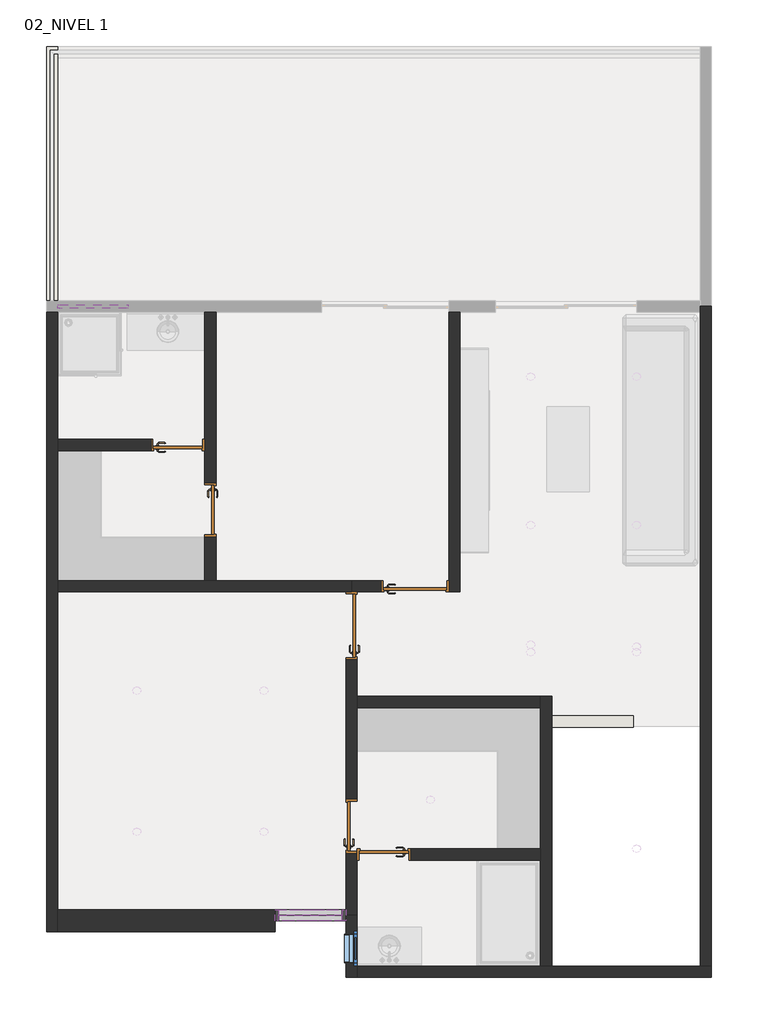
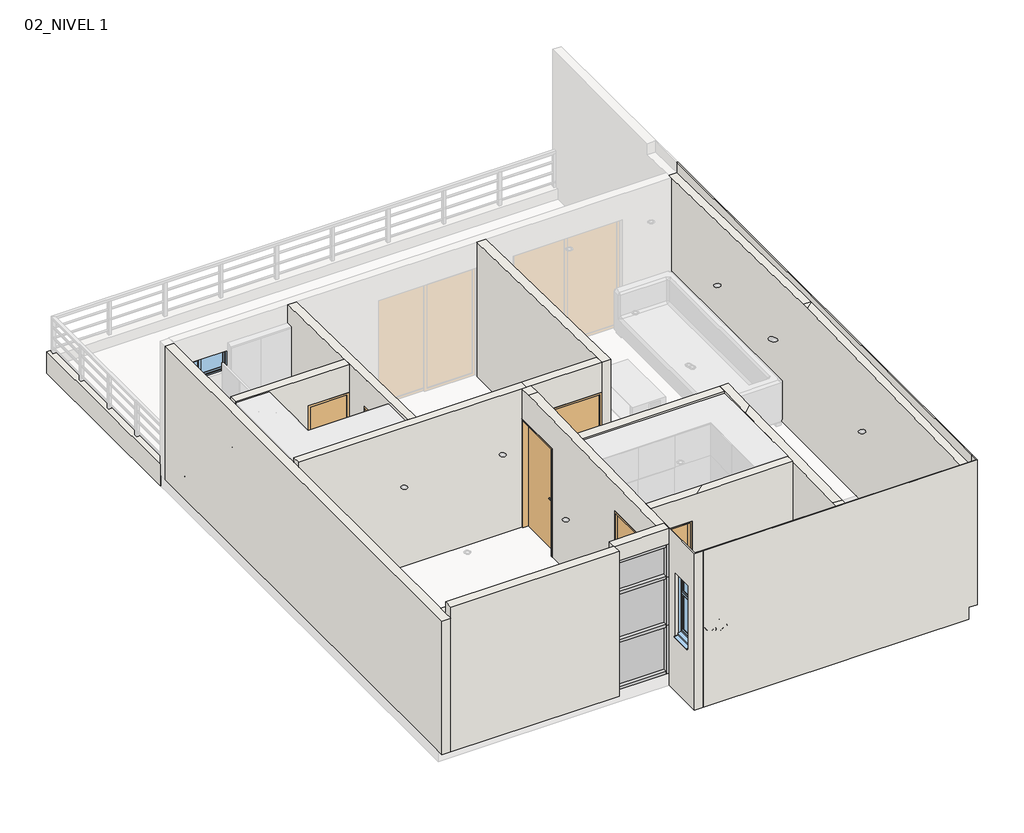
# One storey, part 1 of 2: 17 walls, 10 members, 6 doors, 3 plates, 2 windows.
"""IFC4 building model written with IfcOpenShell, lengths in millimetres."""

from ifc_helpers import new_model, si_unit, frame, origin, place, context, project, spatial, polyline, outline, extrude, faceted_brep, transform, mapped, element, save
from components import door_0_75x2_10_m_d5b717f6, door_0_75x2_10_m_664283bd, door_0_90x2_10_m_c8e1bc58, montante_rectangular_50_x_150mm_negro_35d6a770, montante_rectangular_50_x_150mm_negro_3ddb3363, montante_rectangular_50_x_150mm_negro_4f41d6b7, montante_rectangular_50_x_150mm_negro_e77f96f9, panel_de_sistema_cristal_6_mm_519516f2, panel_de_sistema_cristal_6_mm_005e9894, panel_de_sistema_cristal_6_mm_a6e31bd9, window_0_40m_x_1_20m_34fc3aa1, window_1_00_x_0_40_m_51c43401

model = new_model("IFC4")

# Units and contexts
model_context = context("Model", 3, world=origin())
ifc_project = project(units=[si_unit("LENGTHUNIT", "METRE", prefix="MILLI")], contexts=[model_context])

# Site, building, storey
site = spatial("IfcSite", under=ifc_project)
building = spatial("IfcBuilding", under=site)
storey = spatial("IfcBuildingStorey", under=building, Name="02_NIVEL 1", Elevation=3100.0)

# Doors
placement = place(None, origin())
door_0_75x2_10_m_shape = door_0_75x2_10_m_d5b717f6(model_context)
element("IfcDoor", 1, ObjectType="PUERTA DE  MADERA-CEDRO : 0.75X2.10 M", at=placement, inside=storey, context=model_context, shape_type="MappedRepresentation", body=[
    mapped(door_0_75x2_10_m_shape, transform((8611.5346352, 561.9853574, 3100.0), x_axis=(1.0, 0.0, 0.0), y_axis=(0.0, 1.0, 0.0), z_axis=(0.0, 0.0, 1.0))),
])
element("IfcDoor", 2, ObjectType="PUERTA DE  MADERA-CEDRO : 0.75X2.10 M", at=placement, inside=storey, context=model_context, shape_type="MappedRepresentation", body=[
    mapped(door_0_75x2_10_m_shape, transform((5691.5346352, 6361.9853574, 3100.0), x_axis=(-1.0, 0.0, 0.0), y_axis=(0.0, -1.0, 0.0), z_axis=(0.0, 0.0, 1.0))),
])
door_0_75x2_10_m_2_shape = door_0_75x2_10_m_664283bd(model_context)
element("IfcDoor", 3, ObjectType="PUERTA DE  MADERA-CEDRO : 0.75X2.10 M", at=placement, inside=storey, context=model_context, shape_type="MappedRepresentation", body=[
    mapped(door_0_75x2_10_m_2_shape, transform((8151.5346352, 961.9853574, 3100.0), x_axis=(0.0, -1.0, 0.0), y_axis=(1.0, 0.0, 0.0), z_axis=(0.0, 0.0, 1.0))),
])
element("IfcDoor", 4, ObjectType="PUERTA DE  MADERA-CEDRO : 0.75X2.10 M", at=placement, inside=storey, context=model_context, shape_type="MappedRepresentation", body=[
    mapped(door_0_75x2_10_m_2_shape, transform((6151.5346352, 5441.9853574, 3100.0), x_axis=(0.0, 1.0, 0.0), y_axis=(-1.0, 0.0, 0.0), z_axis=(0.0, 0.0, 1.0))),
])
door_0_90x2_10_m_shape = door_0_90x2_10_m_c8e1bc58(model_context)
element("IfcDoor", 5, ObjectType="PUERTA DE  MADERA-CEDRO : 0.90x2.10 M", at=placement, inside=storey, context=model_context, shape_type="MappedRepresentation", body=[
    mapped(door_0_90x2_10_m_shape, transform((8151.5346352, 3801.9853574, 3100.0), x_axis=(0.0, -1.0, 0.0), y_axis=(1.0, 0.0, 0.0), z_axis=(0.0, 0.0, 1.0))),
])
element("IfcDoor", 6, ObjectType="PUERTA DE  MADERA-CEDRO : 0.90x2.10 M", at=placement, inside=storey, context=model_context, shape_type="MappedRepresentation", body=[
    mapped(door_0_90x2_10_m_shape, transform((9051.5346352, 4361.9853574, 3100.0), x_axis=(-1.0, 0.0, 0.0), y_axis=(0.0, -1.0, 0.0), z_axis=(0.0, 0.0, 1.0))),
])

# Members
montante_rectangular_50_x_150mm_negro_shape = montante_rectangular_50_x_150mm_negro_35d6a770(model_context)
element("IfcMember", 7, ObjectType="Montante rectangular : 50 x 150mm Negro", at=placement, inside=storey, context=model_context, shape_type="MappedRepresentation", body=[
    mapped(montante_rectangular_50_x_150mm_negro_shape, transform((8021.5346352, -298.0146426, 5600.0), x_axis=(0.0, 0.0, 1.0), y_axis=(0.0, -1.0, 0.0), z_axis=(1.0, 0.0, 0.0))),
])
element("IfcMember", 8, ObjectType="Montante rectangular : 50 x 150mm Negro", at=placement, inside=storey, context=model_context, shape_type="MappedRepresentation", body=[
    mapped(montante_rectangular_50_x_150mm_negro_shape, transform((7121.5346352, -298.0146426, 3100.0), x_axis=(0.0, 0.0, -1.0), y_axis=(0.0, -1.0, 0.0), z_axis=(-1.0, 0.0, 0.0))),
])
montante_rectangular_50_x_150mm_negro_2_shape = montante_rectangular_50_x_150mm_negro_3ddb3363(model_context)
element("IfcMember", 9, ObjectType="Montante rectangular : 50 x 150mm Negro", at=placement, inside=storey, context=model_context, shape_type="MappedRepresentation", body=[
    mapped(montante_rectangular_50_x_150mm_negro_2_shape, transform((8021.5346352, -298.0146426, 4966.6666667), x_axis=(0.0, 0.0, 1.0), y_axis=(0.0, -1.0, 0.0), z_axis=(1.0, 0.0, 0.0))),
])
element("IfcMember", 10, ObjectType="Montante rectangular : 50 x 150mm Negro", at=placement, inside=storey, context=model_context, shape_type="MappedRepresentation", body=[
    mapped(montante_rectangular_50_x_150mm_negro_2_shape, transform((8021.5346352, -298.0146426, 4033.3333333), x_axis=(0.0, 0.0, 1.0), y_axis=(0.0, -1.0, 0.0), z_axis=(1.0, 0.0, 0.0))),
])
montante_rectangular_50_x_150mm_negro_3_shape = montante_rectangular_50_x_150mm_negro_4f41d6b7(model_context)
element("IfcMember", 11, ObjectType="Montante rectangular : 50 x 150mm Negro", at=placement, inside=storey, context=model_context, shape_type="MappedRepresentation", body=[
    mapped(montante_rectangular_50_x_150mm_negro_3_shape, transform((8071.5346352, -298.0146426, 3100.0), x_axis=(1.0, 0.0, 0.0), y_axis=(0.0, -1.0, 0.0), z_axis=(0.0, 0.0, -1.0))),
])
element("IfcMember", 12, ObjectType="Montante rectangular : 50 x 150mm Negro", at=placement, inside=storey, context=model_context, shape_type="MappedRepresentation", body=[
    mapped(montante_rectangular_50_x_150mm_negro_3_shape, transform((8071.5346352, -298.0146426, 4033.3333333), x_axis=(1.0, 0.0, 0.0), y_axis=(0.0, -1.0, 0.0), z_axis=(0.0, 0.0, -1.0))),
])
element("IfcMember", 13, ObjectType="Montante rectangular : 50 x 150mm Negro", at=placement, inside=storey, context=model_context, shape_type="MappedRepresentation", body=[
    mapped(montante_rectangular_50_x_150mm_negro_3_shape, transform((7071.5346352, -298.0146426, 4966.6666667), x_axis=(-1.0, 0.0, 0.0), y_axis=(0.0, -1.0, 0.0), z_axis=(0.0, 0.0, 1.0))),
])
element("IfcMember", 14, ObjectType="Montante rectangular : 50 x 150mm Negro", at=placement, inside=storey, context=model_context, shape_type="MappedRepresentation", body=[
    mapped(montante_rectangular_50_x_150mm_negro_3_shape, transform((7071.5346352, -298.0146426, 4033.3333333), x_axis=(-1.0, 0.0, 0.0), y_axis=(0.0, -1.0, 0.0), z_axis=(0.0, 0.0, 1.0))),
])
montante_rectangular_50_x_150mm_negro_4_shape = montante_rectangular_50_x_150mm_negro_e77f96f9(model_context)
element("IfcMember", 15, ObjectType="Montante rectangular : 50 x 150mm Negro", at=placement, inside=storey, context=model_context, shape_type="MappedRepresentation", body=[
    mapped(montante_rectangular_50_x_150mm_negro_4_shape, transform((7071.5346352, -298.0146426, 5600.0), x_axis=(-1.0, 0.0, 0.0), y_axis=(0.0, -1.0, 0.0), z_axis=(0.0, 0.0, 1.0))),
])
element("IfcMember", 16, ObjectType="Montante rectangular : 50 x 150mm Negro", at=placement, inside=storey, context=model_context, shape_type="MappedRepresentation", body=[
    mapped(montante_rectangular_50_x_150mm_negro_4_shape, transform((8071.5346352, -298.0146426, 4966.6666667), x_axis=(1.0, 0.0, 0.0), y_axis=(0.0, -1.0, 0.0), z_axis=(0.0, 0.0, -1.0))),
])

# Plates
panel_de_sistema_cristal_6_mm_shape = panel_de_sistema_cristal_6_mm_519516f2(model_context)
element("IfcPlate", 17, ObjectType="Panel de sistema : CRISTAL 6 MM", at=placement, inside=storey, context=model_context, shape_type="MappedRepresentation", body=[
    mapped(panel_de_sistema_cristal_6_mm_shape, transform((7571.5346352, -298.0146426, 3150.0), x_axis=(1.0, 0.0, 0.0), y_axis=(0.0, 1.0, 0.0), z_axis=(0.0, 0.0, 1.0))),
])
panel_de_sistema_cristal_6_mm_2_shape = panel_de_sistema_cristal_6_mm_005e9894(model_context)
element("IfcPlate", 18, ObjectType="Panel de sistema : CRISTAL 6 MM", at=placement, inside=storey, context=model_context, shape_type="MappedRepresentation", body=[
    mapped(panel_de_sistema_cristal_6_mm_2_shape, transform((7571.5346352, -298.0146426, 4058.3333333), x_axis=(1.0, 0.0, 0.0), y_axis=(0.0, 1.0, 0.0), z_axis=(0.0, 0.0, 1.0))),
])
panel_de_sistema_cristal_6_mm_3_shape = panel_de_sistema_cristal_6_mm_a6e31bd9(model_context)
element("IfcPlate", 19, ObjectType="Panel de sistema : CRISTAL 6 MM", at=placement, inside=storey, context=model_context, shape_type="MappedRepresentation", body=[
    mapped(panel_de_sistema_cristal_6_mm_3_shape, transform((7571.5346352, -298.0146426, 4991.6666667), x_axis=(1.0, 0.0, 0.0), y_axis=(0.0, 1.0, 0.0), z_axis=(0.0, 0.0, 1.0))),
])

# Walls
element("IfcWall", 20, ObjectType="M_TABICÓN_28 MO+ MO", at=placement, inside=storey, context=model_context, shape_type="Brep", body=[
    faceted_brep([(3991.5346352, -528.0146426, 3100.0), (7071.5346352, -528.0146426, 3100.0), (7071.5346352, -528.0146426, 5900.0), (3991.5346352, -528.0146426, 5900.0), (3991.5346352, -528.0146426, 5684.0), (7071.5346352, -218.0146426, 3100.0), (3991.5346352, -218.0146426, 3100.0), (3991.5346352, -218.0146426, 5687.2768362), (7071.5346352, -218.0146426, 5687.2768362), (7071.5346352, -378.0146426, 3100.0), (7071.5346352, -363.0146426, 5684.0), (7071.5346352, -363.0146426, 5900.0), (3991.5346352, -363.0146426, 5900.0), (3991.5346352, -363.0146426, 5684.0)], [[[0, 1, 2, 3, 4]], [[5, 6, 7, 8]], [[1, 0, 6, 5, 9]], [[2, 1, 9, 5, 8, 10, 11]], [[3, 2, 11, 12]], [[6, 0, 4, 3, 12, 13, 7]], [[10, 13, 12, 11]], [[13, 10, 8, 7]]]),
])
element("IfcWall", 21, ObjectType="M_LADRILLO_13-YESO+YESO", at=placement, inside=storey, context=model_context, shape_type="Brep", body=[
    faceted_brep([(8231.5346352, -1178.0146426, 5900.0), (8231.5346352, -1178.0146426, 2870.0), (8231.5346352, -1163.0146426, 2870.0), (8231.5346352, -1163.0146426, 3100.0), (8231.5346352, -1018.0146426, 3100.0), (8231.5346352, -378.0146426, 3100.0), (8231.5346352, -298.0146426, 3100.0), (8231.5346352, -298.0146426, 5685.6751057), (8231.5346352, -385.5389144, 5684.0), (8231.5346352, -1018.0146426, 5684.0), (8231.5346352, -1163.0146426, 5684.0), (8231.5346352, -1163.0146426, 5900.0), (8231.5346352, -518.0146426, 3950.0), (8231.5346352, -1018.0146426, 3950.0), (8231.5346352, -1018.0146426, 5200.0), (8231.5346352, -518.0146426, 5200.0), (8071.5346352, -378.0146426, 2870.0), (8071.5346352, -1178.0146426, 2870.0), (8071.5346352, -1178.0146426, 5900.0), (8071.5346352, -378.0146426, 5900.0), (8071.5346352, -363.0146426, 5900.0), (8071.5346352, -363.0146426, 5684.0), (8071.5346352, -298.0146426, 5685.4689266), (8071.5346352, -298.0146426, 3100.0), (8071.5346352, -378.0146426, 3100.0), (8071.5346352, -568.0146426, 3926.5916612), (8071.5346352, -568.0146426, 5150.0), (8071.5346352, -968.0146426, 5150.0), (8071.5346352, -968.0146426, 3926.5916612), (8086.5346352, -378.0146426, 2870.0), (8086.5346352, -1163.0146426, 2870.0), (8086.5346352, -1163.0146426, 5900.0), (8086.5346352, -363.0146426, 5900.0), (8086.5346352, -378.0146426, 3100.0), (8086.5346352, -1163.0146426, 5684.0), (8086.5346352, -363.0146426, 5684.0), (8162.1843527, -298.0146426, 5685.4689266), (8086.5346352, -1163.0146426, 3100.0), (8151.5346352, -568.0146426, 3950.0), (8131.5346352, -568.0146426, 3950.0), (8131.5346352, -568.0146426, 5150.0), (8151.5346352, -568.0146426, 3935.0), (8151.5346352, -968.0146426, 3935.0), (8131.5346352, -968.0146426, 5150.0), (8131.5346352, -968.0146426, 3950.0), (8151.5346352, -968.0146426, 3950.0), (8131.5346352, -978.0146426, 3950.0), (8181.5346352, -978.0146426, 3950.0), (8181.5346352, -1018.0146426, 3950.0), (8181.5346352, -518.0146426, 3950.0), (8181.5346352, -558.0146426, 3950.0), (8131.5346352, -558.0146426, 3950.0), (8181.5346352, -518.0146426, 5200.0), (8181.5346352, -978.0146426, 5160.0), (8181.5346352, -558.0146426, 5160.0), (8181.5346352, -1018.0146426, 5200.0), (8131.5346352, -558.0146426, 5160.0), (8131.5346352, -978.0146426, 5160.0)], [[[0, 1, 2, 3, 4, 5, 6, 7, 8, 9, 10, 11], [12, 13, 14, 15]], [[16, 17, 18, 19, 20, 21, 22, 23, 24], [25, 26, 27, 28]], [[17, 16, 29, 30, 2, 1]], [[18, 0, 11, 31, 32, 20, 19]], [[1, 0, 18, 17]], [[16, 24, 33, 29]], [[34, 31, 11, 10]], [[31, 34, 35, 32]], [[32, 35, 21, 20]], [[6, 23, 22, 36, 7]], [[23, 6, 5, 4, 3, 37, 33, 24]], [[21, 35, 36, 22]], [[35, 34, 10, 9, 8]], [[36, 35, 8, 7]], [[38, 39, 40, 26, 25, 41]], [[42, 28, 27, 43, 44, 45]], [[41, 25, 28, 42]], [[38, 41, 42, 45]], [[26, 40, 43, 27]], [[39, 38, 45, 44, 46, 47, 48, 13, 12, 49, 50, 51]], [[49, 12, 15, 52]], [[48, 47, 53, 54, 50, 49, 52, 55]], [[51, 50, 54, 56]], [[40, 39, 51, 56, 57, 46, 44, 43]], [[52, 15, 14, 55]], [[54, 53, 57, 56]], [[13, 48, 55, 14]], [[47, 46, 57, 53]], [[30, 37, 3, 2]], [[33, 37, 30, 29]]]),
])
element("IfcWall", 22, ObjectType="M_LADRILLO_13-YESO+YESO", at=placement, inside=storey, context=model_context, shape_type="Brep", body=[
    faceted_brep([(10831.5346352, 2801.9853574, 2870.0), (10831.5346352, -1018.0146426, 2870.0), (10831.5346352, -1018.0146426, 5684.0), (10831.5346352, -789.4224096, 5684.0), (10831.5346352, 1995.5533186, 5737.3009709), (10831.5346352, 2641.9853574, 5751.9096045), (10831.5346352, 2801.9853574, 5755.5254237), (10831.5346352, 2801.9853574, 3100.0), (10991.5346352, -1018.0146426, 2870.0), (10991.5346352, 2366.9853574, 2870.0), (10991.5346352, 2526.9853574, 2870.0), (10991.5346352, 2801.9853574, 2870.0), (10991.5346352, 2801.9853574, 5755.5254237), (10991.5346352, 2133.0290468, 5740.407767), (10991.5346352, -814.2767785, 5684.0), (10991.5346352, -1018.0146426, 5684.0), (10976.5346352, -1018.0146426, 2870.0)], [[[0, 1, 2, 3, 4, 5, 6, 7]], [[8, 9, 10, 11, 12, 13, 14, 15]], [[1, 0, 11, 10, 9, 8, 16]], [[11, 0, 7, 6, 12]], [[1, 16, 8, 15, 2]], [[4, 13, 12, 6, 5]], [[14, 3, 2, 15]], [[13, 4, 3, 14]]]),
])
element("IfcWall", 23, ObjectType="M_LADRILLO_13-YESO+YESO", at=placement, inside=storey, context=model_context, shape_type="Brep", body=[
    faceted_brep([(8231.5346352, -1178.0146426, 2870.0), (10831.5346352, -1178.0146426, 2870.0), (10991.5346352, -1178.0146426, 2870.0), (13091.5346352, -1178.0146426, 2870.0), (13091.5346352, -1178.0146426, 3100.0), (13251.5346352, -1178.0146426, 3100.0), (13251.5346352, -1178.0146426, 5900.0), (8231.5346352, -1178.0146426, 5900.0), (13251.5346352, -1018.0146426, 3100.0), (13091.5346352, -1018.0146426, 3100.0), (13091.5346352, -1018.0146426, 2870.0), (10991.5346352, -1018.0146426, 2870.0), (10976.5346352, -1018.0146426, 2870.0), (10976.5346352, -1018.0146426, 3100.0), (8231.5346352, -1018.0146426, 3100.0), (8231.5346352, -1018.0146426, 3950.0), (8231.5346352, -1018.0146426, 5200.0), (8231.5346352, -1018.0146426, 5684.0), (10831.5346352, -1018.0146426, 5684.0), (10991.5346352, -1018.0146426, 5684.0), (12303.0971352, -1018.0146426, 5684.0), (13091.5346352, -1018.0146426, 5686.3440331), (13236.5346352, -1018.0146426, 5686.7751196), (13236.5346352, -1018.0146426, 5900.0), (13251.5346352, -1018.0146426, 5900.0), (8231.5346352, -1163.0146426, 2870.0), (10976.5346352, -1163.0146426, 2870.0), (13236.5346352, -1163.0146426, 5900.0), (8231.5346352, -1163.0146426, 5900.0), (8231.5346352, -1163.0146426, 5684.0), (8231.5346352, -1163.0146426, 3100.0), (13236.5346352, -1163.0146426, 5684.0), (10976.5346352, -1163.0146426, 3100.0)], [[[0, 1, 2, 3, 4, 5, 6, 7]], [[8, 9, 10, 11, 12, 13, 14, 15, 16, 17, 18, 19, 20, 21, 22, 23, 24]], [[3, 2, 1, 0, 25, 26, 12, 11, 10]], [[7, 6, 24, 23, 27, 28]], [[0, 7, 28, 29, 17, 16, 15, 14, 30, 25]], [[5, 4, 9, 8]], [[4, 3, 10, 9]], [[6, 5, 8, 24]], [[31, 27, 23, 22]], [[27, 31, 29, 28]], [[29, 31, 20, 19, 18, 17]], [[20, 31, 22, 21]], [[13, 32, 30, 14]], [[32, 26, 25, 30]], [[26, 32, 13, 12]]]),
])
element("IfcWall", 24, ObjectType="M_LADRILLO_13-YESO+YESO", at=placement, inside=storey, context=model_context, shape_type="Brep", body=[
    faceted_brep([(13251.5346352, -1018.0146426, 3100.0), (13251.5346352, 8321.9853574, 3100.0), (13251.5346352, 8321.9853574, 5900.0), (13251.5346352, -1018.0146426, 5900.0), (13091.5346352, 8321.9853574, 3100.0), (13091.5346352, 8241.9853574, 3100.0), (13091.5346352, 2381.9853574, 3100.0), (13091.5346352, -1018.0146426, 3100.0), (13091.5346352, -1018.0146426, 5686.3440331), (13091.5346352, 3937.3979788, 5781.184466), (13091.5346352, 4061.9853574, 5784.0), (13091.5346352, 8241.9853574, 5699.3846154), (13091.5346352, 8321.9853574, 5697.7651822), (13236.5346352, 8321.9853574, 5900.0), (13236.5346352, -1018.0146426, 5900.0), (13236.5346352, -1018.0146426, 5686.7751196), (13236.5346352, 4061.9853574, 5784.0), (13236.5346352, 8321.9853574, 5697.7651822)], [[[0, 1, 2, 3]], [[4, 5, 6, 7, 8, 9, 10, 11, 12]], [[1, 0, 7, 6, 5, 4]], [[3, 2, 13, 14]], [[0, 3, 14, 15, 8, 7]], [[16, 15, 14, 13, 17]], [[9, 16, 10]], [[16, 9, 8, 15]], [[10, 16, 17, 12, 11]], [[1, 4, 12, 17, 13, 2]]]),
])
element("IfcWall", 25, ObjectType="M_LADRILLO_13-YESO+YESO", at=placement, inside=storey, context=model_context, shape_type="Brep", body=[
    faceted_brep([(3831.5346352, 8241.9853574, 5684.0), (3831.5346352, 8241.9853574, 3100.0), (3831.5346352, -218.0146426, 3100.0), (3831.5346352, -528.0146426, 3100.0), (3831.5346352, -528.0146426, 5684.0), (3991.5346352, 8241.9853574, 3100.0), (3991.5346352, 8241.9853574, 4800.0), (3991.5346352, 8241.9853574, 5200.0), (3991.5346352, 8241.9853574, 5684.0), (3991.5346352, -528.0146426, 5684.0), (3991.5346352, -528.0146426, 3100.0), (3991.5346352, -218.0146426, 3100.0), (3991.5346352, 4281.9853574, 3100.0), (3991.5346352, 4441.9853574, 3100.0), (3991.5346352, 6281.9853574, 3100.0), (3991.5346352, 6441.9853574, 3100.0), (3846.5346352, 8241.9853574, 3100.0)], [[[0, 1, 2, 3, 4]], [[5, 6, 7, 8, 9, 10, 11, 12, 13, 14, 15]], [[3, 2, 1, 16, 5, 15, 14, 13, 12, 11, 10]], [[0, 4, 9, 8]], [[0, 8, 7, 6, 5, 16, 1]], [[4, 3, 10, 9]]]),
])
element("IfcWall", 26, ObjectType="M_LADRILLO_13-YESO+YESO", at=placement, inside=storey, context=model_context, shape_type="SweptSolid", body=[
    extrude(outline(polyline([(2801.9853574, 3100.0), (2641.9853574, 3100.0), (2641.9853574, 5751.9096045), (2801.9853574, 5755.5254237), (2801.9853574, 3100.0)])), frame((8231.5346352, 0.0, 0.0), z_axis=(1.0, 0.0, 0.0), x_axis=(0.0, 1.0, 0.0)), (0.0, 0.0, 1.0), 2600.0),
])
element("IfcWall", 27, ObjectType="M_LADRILLO_13-YESO+YESO", at=placement, inside=storey, context=model_context, shape_type="Brep", body=[
    faceted_brep([(9691.5346352, 4281.9853574, 3100.0), (9691.5346352, 8241.9853574, 3100.0), (9691.5346352, 8241.9853574, 5699.3846154), (9691.5346352, 4281.9853574, 5779.5465587), (9531.5346352, 8241.9853574, 3100.0), (9531.5346352, 4281.9853574, 3100.0), (9531.5346352, 4281.9853574, 5200.0), (9531.5346352, 4281.9853574, 5779.5465587), (9531.5346352, 4441.9853574, 5776.3076923), (9531.5346352, 8241.9853574, 5699.3846154), (9531.5346352, 8241.9853574, 5200.0)], [[[0, 1, 2, 3]], [[4, 5, 6, 7, 8, 9, 10]], [[1, 0, 5, 4]], [[1, 4, 10, 9, 2]], [[5, 0, 3, 7, 6]], [[3, 2, 9, 8, 7]]]),
])
element("IfcWall", 28, ObjectType="M_LADRILLO_13-YESO+YESO", at=placement, inside=storey, context=model_context, shape_type="Brep", body=[
    faceted_brep([(8571.5346352, 4441.9853574, 3100.0), (8151.5346352, 4441.9853574, 3100.0), (8151.5346352, 4441.9853574, 5776.3076923), (9531.5346352, 4441.9853574, 5776.3076923), (9531.5346352, 4441.9853574, 5200.0), (8571.5346352, 4441.9853574, 5200.0), (8151.5346352, 4281.9853574, 3100.0), (8571.5346352, 4281.9853574, 3100.0), (8571.5346352, 4281.9853574, 5200.0), (9531.5346352, 4281.9853574, 5200.0), (9531.5346352, 4281.9853574, 5779.5465587), (8231.5346352, 4281.9853574, 5779.5465587), (8151.5346352, 4281.9853574, 5779.5465587)], [[[0, 1, 2, 3, 4, 5]], [[6, 7, 8, 9, 10, 11, 12]], [[6, 1, 0, 7]], [[1, 6, 12, 2]], [[9, 4, 3, 10]], [[5, 8, 7, 0]], [[8, 5, 4, 9]], [[3, 2, 12, 11, 10]]]),
])
element("IfcWall", 29, ObjectType="M_LADRILLO_13-YESO+YESO", at=placement, inside=storey, context=model_context, shape_type="Brep", body=[
    faceted_brep([(8231.5346352, 3321.9853574, 3100.0), (8231.5346352, 3321.9853574, 5200.0), (8231.5346352, 4281.9853574, 5200.0), (8231.5346352, 4281.9853574, 5779.5465587), (8231.5346352, 4061.9853574, 5784.0), (8231.5346352, 2801.9853574, 5755.5254237), (8231.5346352, 2641.9853574, 5751.9096045), (8231.5346352, 641.9853574, 5706.7118644), (8231.5346352, 481.9853574, 5703.0960452), (8231.5346352, -238.4272639, 5686.815534), (8231.5346352, -298.0146426, 5685.6751057), (8231.5346352, -298.0146426, 3100.0), (8231.5346352, -218.0146426, 3100.0), (8231.5346352, 581.9853574, 3100.0), (8231.5346352, 581.9853574, 5200.0), (8231.5346352, 641.9853574, 5200.0), (8231.5346352, 1341.9853574, 5200.0), (8231.5346352, 1341.9853574, 3100.0), (8231.5346352, 2641.9853574, 3100.0), (8231.5346352, 2801.9853574, 3100.0), (8071.5346352, 3321.9853574, 5200.0), (8071.5346352, 3321.9853574, 3100.0), (8071.5346352, 2801.9853574, 3100.0), (8071.5346352, 1341.9853574, 3100.0), (8071.5346352, 1341.9853574, 5200.0), (8071.5346352, 581.9853574, 5200.0), (8071.5346352, 581.9853574, 3100.0), (8071.5346352, -218.0146426, 3100.0), (8071.5346352, -298.0146426, 3100.0), (8071.5346352, -298.0146426, 5685.4689266), (8071.5346352, 4061.9853574, 5784.0), (8071.5346352, 4281.9853574, 5779.5465587), (8071.5346352, 4281.9853574, 5200.0), (8162.1843527, -298.0146426, 5685.4689266), (8151.5346352, 4281.9853574, 5779.5465587)], [[[0, 1, 2, 3, 4, 5, 6, 7, 8, 9, 10, 11, 12, 13, 14, 15, 16, 17, 18, 19]], [[20, 21, 22, 23, 24, 25, 26, 27, 28, 29, 30, 31, 32]], [[21, 0, 19, 18, 17, 23, 22]], [[11, 28, 27, 26, 13, 12]], [[20, 1, 0, 21]], [[1, 20, 32, 2]], [[28, 11, 10, 33, 29]], [[33, 9, 8, 7, 6, 5, 4, 30, 29]], [[9, 33, 10]], [[25, 14, 13, 26]], [[14, 25, 24, 16, 15]], [[16, 24, 23, 17]], [[2, 32, 31, 34, 3]], [[30, 4, 3, 34, 31]]]),
])
element("IfcWall", 30, ObjectType="M_LADRILLO_13-YESO+YESO", at=placement, inside=storey, context=model_context, shape_type="Brep", body=[
    faceted_brep([(3991.5346352, 12001.9853574, 3300.0), (3991.5346352, 11841.9853574, 3300.0), (3991.5346352, 8401.9853574, 3300.0), (3991.5346352, 8401.9853574, 3100.0), (3991.5346352, 11841.9853574, 3100.0), (3991.5346352, 11986.9853574, 3100.0), (3991.5346352, 11986.9853574, 2884.0), (3991.5346352, 12001.9853574, 2884.0), (3831.5346352, 12001.9853574, 2884.0), (3831.5346352, 8401.9853574, 2884.0), (3831.5346352, 8401.9853574, 3100.0), (3831.5346352, 8401.9853574, 3300.0), (3831.5346352, 12001.9853574, 3300.0), (3846.5346352, 11986.9853574, 2884.0), (3846.5346352, 8401.9853574, 2884.0), (3846.5346352, 8401.9853574, 3100.0), (3846.5346352, 11986.9853574, 3100.0)], [[[0, 1, 2, 3, 4, 5, 6, 7]], [[8, 9, 10, 11, 12]], [[9, 8, 7, 6, 13, 14]], [[2, 1, 0, 12, 11]], [[0, 7, 8, 12]], [[2, 11, 10, 9, 14, 15, 3]], [[15, 16, 5, 4, 3]], [[13, 16, 15, 14]], [[16, 13, 6, 5]]]),
])
element("IfcWall", 31, ObjectType="M_LADRILLO_13-YESO+YESO", at=placement, inside=storey, context=model_context, shape_type="Brep", body=[
    faceted_brep([(8991.5346352, 481.9853574, 3100.0), (10831.5346352, 481.9853574, 3100.0), (10831.5346352, 481.9853574, 5708.333163), (9069.9809629, 481.9853574, 5703.0960452), (8231.5346352, 481.9853574, 5703.0960452), (8231.5346352, 481.9853574, 5200.0), (8991.5346352, 481.9853574, 5200.0), (10831.5346352, 641.9853574, 3100.0), (8991.5346352, 641.9853574, 3100.0), (8991.5346352, 641.9853574, 5200.0), (8231.5346352, 641.9853574, 5200.0), (8231.5346352, 641.9853574, 5706.7118644), (9256.1956522, 641.9853574, 5706.7118644), (10831.5346352, 641.9853574, 5711.395364), (8231.5346352, 581.9853574, 5200.0)], [[[0, 1, 2, 3, 4, 5, 6]], [[7, 8, 9, 10, 11, 12, 13]], [[7, 1, 0, 8]], [[1, 7, 13, 2]], [[10, 14, 5, 4, 11]], [[6, 9, 8, 0]], [[9, 6, 5, 14, 10]], [[3, 12, 11, 4]], [[12, 3, 2, 13]]]),
])
element("IfcWall", 32, ObjectType="M_LADRILLO_13-YESO+YESO", at=placement, inside=storey, context=model_context, shape_type="Brep", body=[
    faceted_brep([(6231.5346352, 8241.9853574, 3100.0), (6231.5346352, 8241.9853574, 5699.3846154), (6231.5346352, 4441.9853574, 5776.3076923), (6231.5346352, 4441.9853574, 3100.0), (6231.5346352, 5061.9853574, 3100.0), (6231.5346352, 5061.9853574, 5200.0), (6231.5346352, 5821.9853574, 5200.0), (6231.5346352, 5821.9853574, 3100.0), (6071.5346352, 8241.9853574, 5699.3846154), (6071.5346352, 8241.9853574, 3100.0), (6071.5346352, 5821.9853574, 3100.0), (6071.5346352, 5821.9853574, 5200.0), (6071.5346352, 5061.9853574, 5200.0), (6071.5346352, 5061.9853574, 3100.0), (6071.5346352, 4441.9853574, 3100.0), (6071.5346352, 4441.9853574, 5776.3076923), (6071.5346352, 6281.9853574, 5739.0607287), (6071.5346352, 6441.9853574, 5735.8218623)], [[[0, 1, 2, 3, 4, 5, 6, 7]], [[8, 9, 10, 11, 12, 13, 14, 15, 16, 17]], [[9, 0, 7, 10]], [[3, 14, 13, 4]], [[1, 0, 9, 8]], [[3, 2, 15, 14]], [[6, 11, 10, 7]], [[11, 6, 5, 12]], [[12, 5, 4, 13]], [[2, 1, 8, 17, 16, 15]]]),
])
element("IfcWall", 33, ObjectType="M_LADRILLO_13-YESO+YESO", at=placement, inside=storey, context=model_context, shape_type="Brep", body=[
    faceted_brep([(8071.5346352, -378.0146426, 5900.0), (7071.5346352, -378.0146426, 5900.0), (7071.5346352, -378.0146426, 5600.0), (8071.5346352, -378.0146426, 5600.0), (7071.5346352, -218.0146426, 5900.0), (8071.5346352, -218.0146426, 5900.0), (8071.5346352, -218.0146426, 5600.0), (7071.5346352, -218.0146426, 5600.0), (8071.5346352, -363.0146426, 5900.0), (7071.5346352, -363.0146426, 5900.0)], [[[0, 1, 2, 3]], [[4, 5, 6, 7]], [[1, 0, 8, 5, 4, 9]], [[1, 9, 4, 7, 2]], [[3, 2, 7, 6]], [[5, 8, 0, 3, 6]]]),
])
element("IfcWall", 34, ObjectType="M_LADRILLO_13-YESO+YESO", at=placement, inside=storey, context=model_context, shape_type="Brep", body=[
    faceted_brep([(3991.5346352, 6441.9853574, 3100.0), (3991.5346352, 6441.9853574, 5735.8218623), (6071.5346352, 6441.9853574, 5735.8218623), (6071.5346352, 6441.9853574, 5200.0), (5311.5346352, 6441.9853574, 5200.0), (5311.5346352, 6441.9853574, 3100.0), (3991.5346352, 6281.9853574, 5739.0607287), (3991.5346352, 6281.9853574, 3100.0), (5311.5346352, 6281.9853574, 3100.0), (5311.5346352, 6281.9853574, 5200.0), (6071.5346352, 6281.9853574, 5200.0), (6071.5346352, 6281.9853574, 5739.0607287)], [[[0, 1, 2, 3, 4, 5]], [[6, 7, 8, 9, 10, 11]], [[7, 0, 5, 8]], [[1, 0, 7, 6]], [[2, 11, 10, 3]], [[4, 9, 8, 5]], [[9, 4, 3, 10]], [[2, 1, 6, 11]]]),
])
element("IfcWall", 35, ObjectType="M_LADRILLO_13-YESO+YESO", at=placement, inside=storey, context=model_context, shape_type="Brep", body=[
    faceted_brep([(8151.5346352, 4441.9853574, 3100.0), (6231.5346352, 4441.9853574, 3100.0), (6071.5346352, 4441.9853574, 3100.0), (3991.5346352, 4441.9853574, 3100.0), (3991.5346352, 4441.9853574, 5776.3076923), (6071.5346352, 4441.9853574, 5776.3076923), (6231.5346352, 4441.9853574, 5776.3076923), (8151.5346352, 4441.9853574, 5776.3076923), (3991.5346352, 4281.9853574, 3100.0), (8151.5346352, 4281.9853574, 3100.0), (8151.5346352, 4281.9853574, 5779.5465587), (8071.5346352, 4281.9853574, 5779.5465587), (3991.5346352, 4281.9853574, 5779.5465587)], [[[0, 1, 2, 3, 4, 5, 6, 7]], [[8, 9, 10, 11, 12]], [[3, 2, 1, 0, 9, 8]], [[9, 0, 7, 10]], [[3, 8, 12, 4]], [[7, 6, 5, 4, 12, 11, 10]]]),
])
element("IfcWall", 36, ObjectType="M_LADRILLO_13-YESO+YESO", at=placement, inside=storey, context=model_context, shape_type="SweptSolid", body=[
    extrude(outline(polyline([(2366.9853574, 2870.0), (2366.9853574, 4100.0), (2526.9853574, 4100.0), (2526.9853574, 3100.0), (2381.9853574, 3100.0), (2381.9853574, 2870.0), (2366.9853574, 2870.0)])), frame((10991.5346352, 0.0, 0.0), z_axis=(1.0, 0.0, 0.0), x_axis=(0.0, 1.0, 0.0)), (0.0, 0.0, 1.0), 1150.4),
])

# Windows
window_0_40m_x_1_20m_shape = window_0_40m_x_1_20m_34fc3aa1(model_context)
element("IfcWindow", 37, ObjectType="1 Vantail - Imposte haute : 0.40m x 1.20m", at=placement, inside=storey, context=model_context, shape_type="MappedRepresentation", body=[
    mapped(window_0_40m_x_1_20m_shape, transform((8151.5346352, -768.0146426, 3150.0), x_axis=(0.0, -1.0, 0.0), y_axis=(1.0, 0.0, 0.0), z_axis=(0.0, 0.0, 1.0))),
])
window_1_00_x_0_40_m_shape = window_1_00_x_0_40_m_51c43401(model_context)
element("IfcWindow", 38, ObjectType="VENTANA CORREDIZA : 1.00 x 0.40 m", at=placement, inside=storey, context=model_context, shape_type="MappedRepresentation", body=[
    mapped(window_1_00_x_0_40_m_shape, transform((4491.5346352, 8321.9853574, 3100.0), x_axis=(1.0, 0.0, 0.0), y_axis=(0.0, 1.0, 0.0), z_axis=(0.0, 0.0, 1.0))),
])

save(model, "model.ifc")
